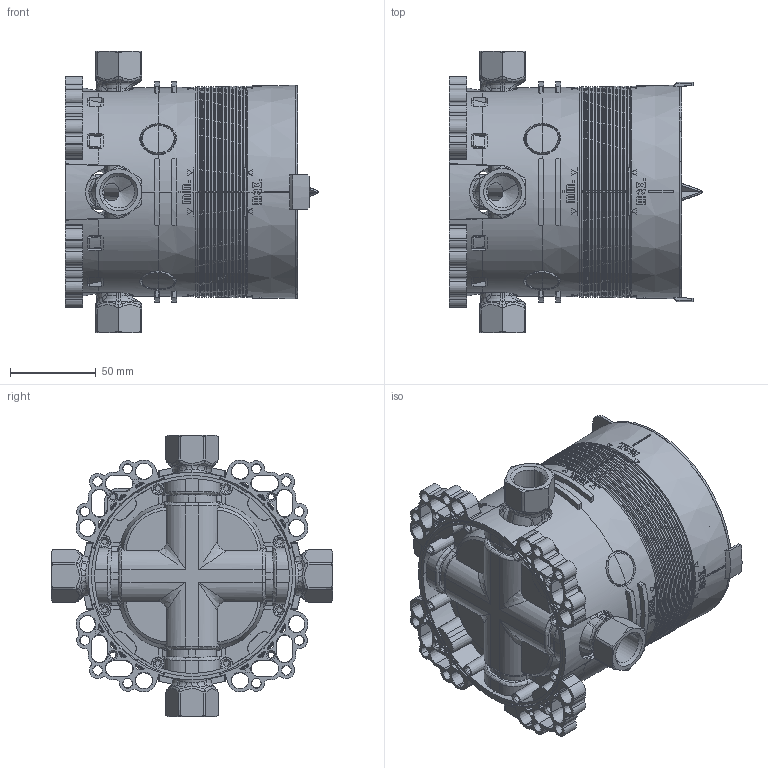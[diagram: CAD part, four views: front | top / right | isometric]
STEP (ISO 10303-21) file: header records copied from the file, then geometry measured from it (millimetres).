
FILE_DESCRIPTION((''),'2;1');
FILE_NAME('80000000GA_10_1_ASM','2021-05-26T11:21:51',('LF994'),(''),'CREO PARAMETRIC BY PTC INC, 2018500','CREO PARAMETRIC BY PTC INC, 2018500','');
FILE_SCHEMA(('CONFIG_CONTROL_DESIGN'));
Products named in the file (5): D017314_7_1; A023133_4_1; A023134_9_1; A023135_3_1; 80000000GA_10_1_ASM
Assembly tree (4 placements, depth 2):
  80000000GA_10_1_ASM
    D017314_7_1
    A023133_4_1
    A023134_9_1
    A023135_3_1
Bounding box: 147.5 x 164 x 164 mm (x, y, z)
Volume: 303612.3 mm3; surface area: 264851.3 mm2
Topology: 4 solids, 4 shells, 3735 faces, 10517 edges, 6724 vertices
Faces by surface type: plane 1307, cone 837, cylinder 703, bspline 668, torus 160, sphere 52, revolution 8
Entity records: 170290 total; most frequent: CARTESIAN_POINT 80965, ORIENTED_EDGE 20768, DIRECTION 15961, EDGE_CURVE 10384, VERTEX_POINT 6724, AXIS2_PLACEMENT_3D 6300, EDGE_LOOP 3926, B_SPLINE_CURVE_WITH_KNOTS 3807
